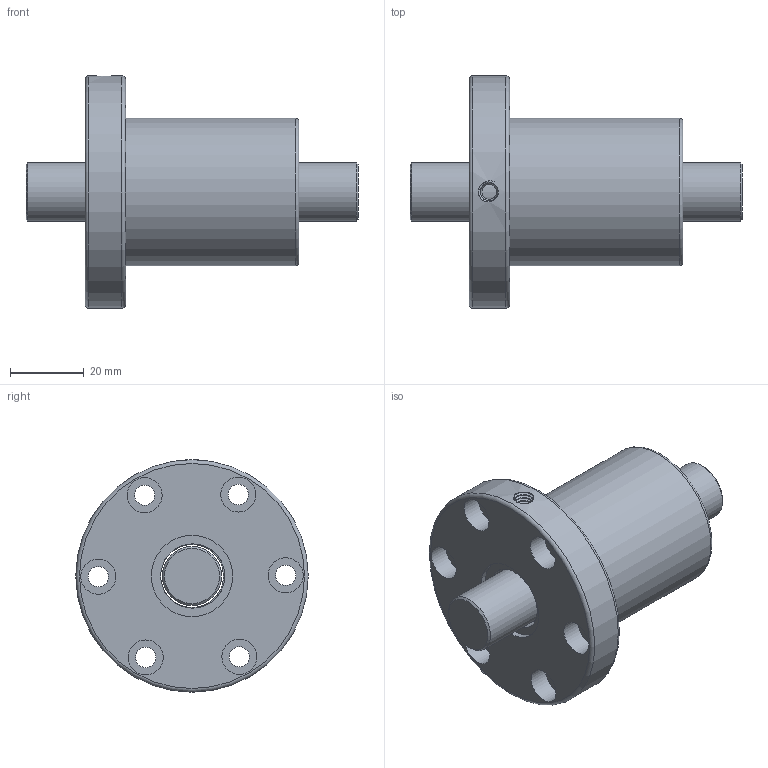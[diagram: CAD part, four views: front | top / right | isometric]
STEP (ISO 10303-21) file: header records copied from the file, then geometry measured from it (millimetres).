
FILE_DESCRIPTION(/* description */ ('Unknown','CAx-IF Rec.Pracs.---Representation and Presentation of Product Manufacturing Information (PMI)---4.0---2014-10-13','CAx-IF Rec.Pracs.---3D Tessellated Geometry---0.4---2014-09-14','2;1'),/* implementation_level */ '2;1');
FILE_NAME(/* name */ 'SFV01610-2.7',/* time_stamp */ '2020-12-08T09:58:34+08:00',/* author */ ('Unknown'),/* organization */ ('Unknown'),/* preprocessor_version */ 'ST-DEVELOPER v16.7',/* originating_system */ 'Solid Edge',/* authorisation */ 'Unknown');
FILE_SCHEMA (('AP242_MANAGED_MODEL_BASED_3D_ENGINEERING_MIM_LF { 1 0 10303 442 1 1 4 }'));
Length unit declared in the file: millimetre
Products named in the file (1): SFV01610-2.7
Bounding box: 90 x 63 x 63 mm (x, y, z)
Volume: 94195.6 mm3; surface area: 23316.1 mm2
Topology: 2 solids, 2 shells, 49 faces, 103 edges, 66 vertices
Faces by surface type: cylinder 24, plane 17, torus 3, cone 3, bspline 2
Full cylindrical faces by diameter (mm): 4 x1, 4.917 x1, 5.5 x6, 9.5 x6, 16 x1, 17 x1, 17.412 x2, 22 x2, 40 x1, 63 x1
Entity records: 3287 total; most frequent: CARTESIAN_POINT 2283, DIRECTION 208, ORIENTED_EDGE 132, AXIS2_PLACEMENT_3D 104, EDGE_LOOP 101, FACE_BOUND 101, EDGE_CURVE 66, VERTEX_POINT 57
